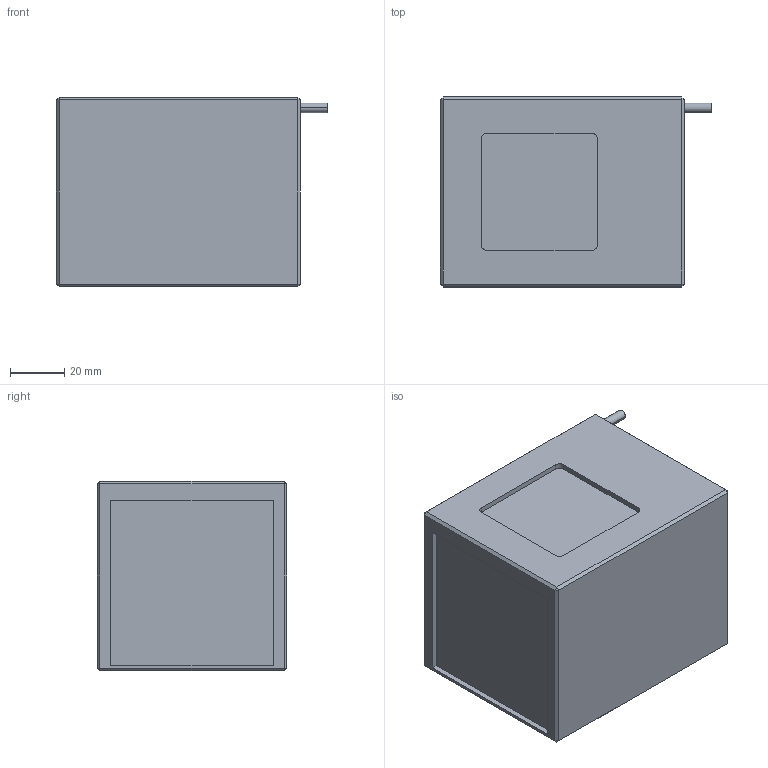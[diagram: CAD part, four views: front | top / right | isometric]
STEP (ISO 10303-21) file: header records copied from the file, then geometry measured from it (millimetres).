
FILE_DESCRIPTION (( 'STEP AP203' ), '1' );
FILE_NAME ('CRT-COLC60-¼òÒ×3DÍ¼.STEP', '2022-07-23T03:31:29', ( 'Admin' ), ( '' ), 'SwSTEP 2.0', 'SolidWorks 2018', '' );
FILE_SCHEMA (( 'CONFIG_CONTROL_DESIGN' ));
Length unit declared in the file: millimetre
Products named in the file (1): CRT-COLC60-潠眢3D芞
Bounding box: 100 x 70 x 70 mm (x, y, z)
Volume: 429517.5 mm3; surface area: 35565.2 mm2
Topology: 1 solids, 1 shells, 59 faces, 130 edges, 72 vertices
Faces by surface type: plane 37, cylinder 14, cone 8
Entity records: 1597 total; most frequent: DIRECTION 270, CARTESIAN_POINT 254, ORIENTED_EDGE 244, EDGE_CURVE 122, VECTOR 94, LINE 94, AXIS2_PLACEMENT_3D 88, VERTEX_POINT 72
